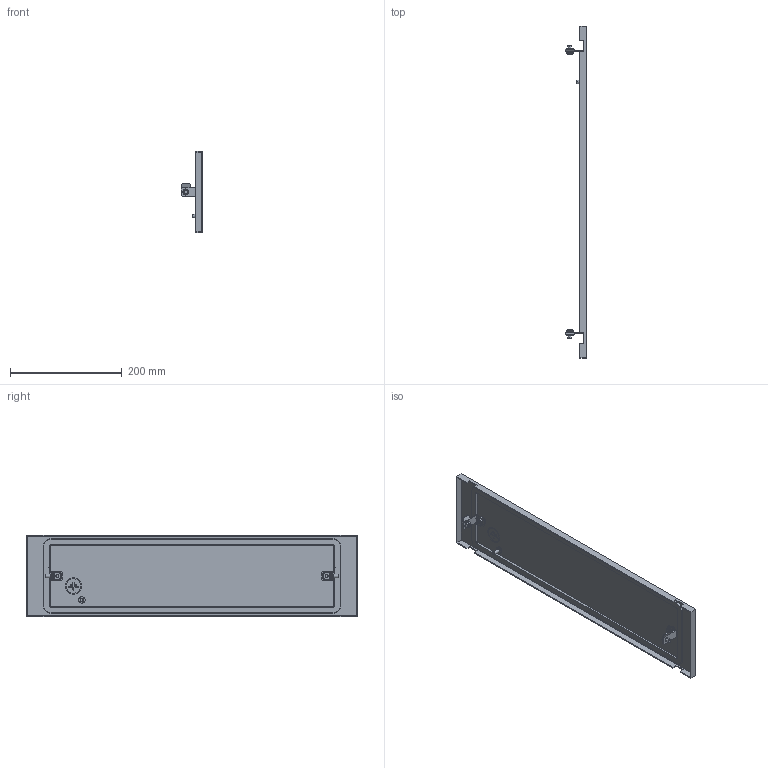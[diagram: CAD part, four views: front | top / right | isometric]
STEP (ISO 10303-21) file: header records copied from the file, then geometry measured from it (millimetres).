
FILE_DESCRIPTION (( 'STEP AP214' ), '1' );
FILE_NAME ('FO-00-PWSB-015-060 Ôàëüø-ïàíåëü âíåøíÿÿ ãëóõàÿ 150õ600 ìì.STEP', '2025-08-25T08:01:54', ( '' ), ( '' ), 'SwSTEP 2.0', 'SolidWorks 2023', '' );
FILE_SCHEMA (( 'AUTOMOTIVE_DESIGN' ));
Length unit declared in the file: millimetre
Products named in the file (1): FO-00-PWSB-015-060 Фальш-панель внешняя глухая 150х600 мм
Bounding box: 38.5 x 595 x 146 mm (x, y, z)
Volume: 254538.1 mm3; surface area: 220473 mm2
Topology: 1 solids, 6 shells, 464 faces, 1143 edges, 705 vertices
Faces by surface type: plane 288, cylinder 112, cone 48, torus 16
Entity records: 13826 total; most frequent: CARTESIAN_POINT 2639, DIRECTION 2387, ORIENTED_EDGE 2282, EDGE_CURVE 1141, AXIS2_PLACEMENT_3D 813, LINE 761, VECTOR 761, VERTEX_POINT 705
